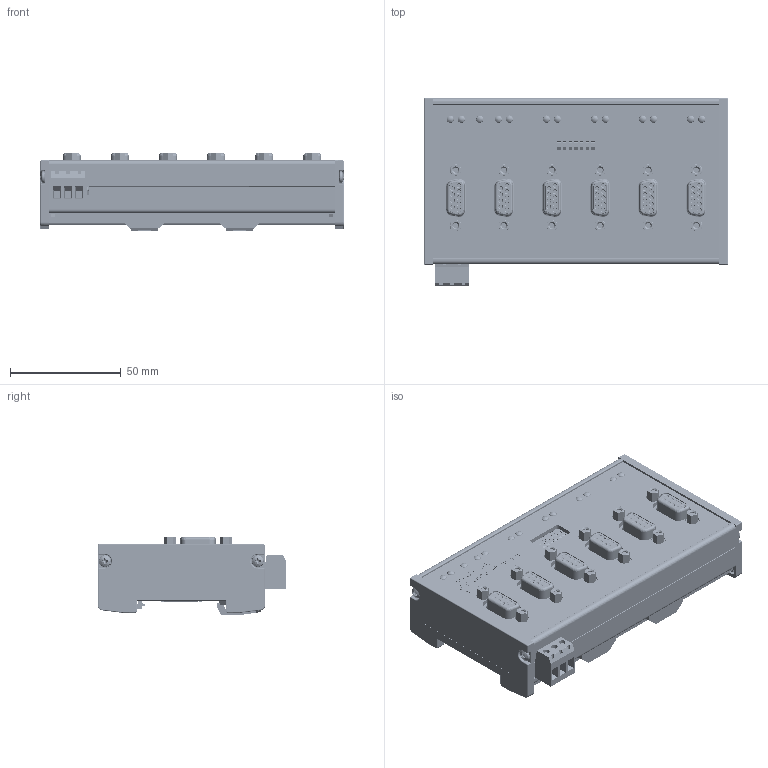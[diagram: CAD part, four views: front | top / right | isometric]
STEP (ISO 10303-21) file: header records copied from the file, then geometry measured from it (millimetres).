
FILE_DESCRIPTION (( 'STEP AP214' ), '1' );
FILE_NAME ('700-972-6AA02_V00-03.STEP', '2019-11-22T10:19:23', ( '' ), ( '' ), 'SwSTEP 2.0', 'SolidWorks 2019', '' );
FILE_SCHEMA (( 'AUTOMOTIVE_DESIGN' ));
Length unit declared in the file: millimetre
Products named in the file (39): ArtNr^700-972-6AA02_V00-03; b003-phx-03 V 00-00; m-k29x45V 00-00; g-alu-001 V01-03_RAL 6034 ; PLP2-xxx V00-11; g-alu-001 V01-03; 1098V16-Single; g-alu-002_V00-00; g-alu-002_V00-00_RAL 6034; 700-972-6AA02_V00-03; m-k30x08-bj V 00-00; g-alu-053_V00-01; g-alu-053_V00-01_cutout for 5.08 grid; ps-alu-161_V00-02; PLP2-xxx V00-11_PLP2-7MM
Assembly tree (28 placements, depth 2):
  b003-phx-03 V 00-00
  m-k29x45V 00-00
  PLP2-xxx V00-11
  g-alu-001 V01-03
  1098V16-Single
Bounding box: 137 x 85.1 x 35.35 mm (x, y, z)
Volume: 65826.6 mm3; surface area: 130125.5 mm2
Topology: 80 solids, 516 shells, 26159 faces, 67774 edges, 42458 vertices
Faces by surface type: plane 13149, cylinder 5785, bspline 5453, cone 1367, sphere 312, torus 93
Entity records: 1164943 total; most frequent: CARTESIAN_POINT 342612, ORIENTED_EDGE 128885, DIRECTION 103670, EDGE_CURVE 64460, VERTEX_POINT 41030, VECTOR 39734, LINE 39734, AXIS2_PLACEMENT_3D 31968
